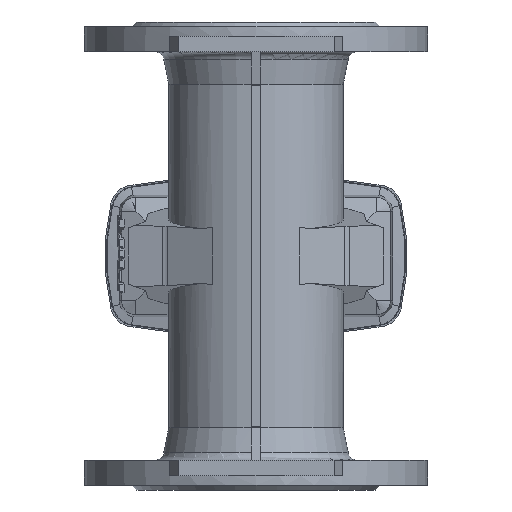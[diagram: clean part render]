
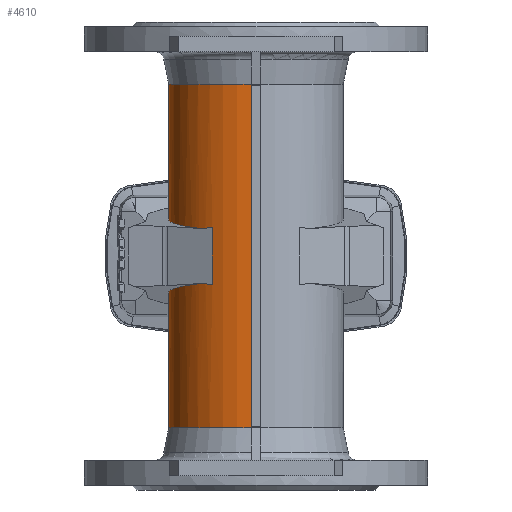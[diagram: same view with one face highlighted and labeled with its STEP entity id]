
A CAD part, front view. The second image highlights one B-rep face of the part: STEP entity #4610.
In plain terms, the highlighted cylindrical face has radius 56 mm (diameter 112 mm), a partial arc.
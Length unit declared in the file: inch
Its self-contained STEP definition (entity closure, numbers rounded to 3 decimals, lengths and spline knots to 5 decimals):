
#1296 = ORIENTED_EDGE ( 'NONE', *, *, #7206, .T. ) ;
#1313 = ORIENTED_EDGE ( 'NONE', *, *, #7179, .T. ) ;
#1315 = ORIENTED_EDGE ( 'NONE', *, *, #7220, .T. ) ;
#1317 = ORIENTED_EDGE ( 'NONE', *, *, #7231, .T. ) ;
#1323 = ORIENTED_EDGE ( 'NONE', *, *, #7238, .F. ) ;
#1324 = ORIENTED_EDGE ( 'NONE', *, *, #7190, .F. ) ;
#1347 = ORIENTED_EDGE ( 'NONE', *, *, #7184, .T. ) ;
#1354 = ORIENTED_EDGE ( 'NONE', *, *, #7183, .F. ) ;
#1573 = FACE_OUTER_BOUND ( 'NONE', #3813, .T. ) ;
#1578 = CYLINDRICAL_SURFACE ( 'NONE', #7787, 2.20472 ) ;
#2727 = CARTESIAN_POINT ( 'NONE',  ( -0.11811, -2.20156, 4.33638 ) ) ;
#2731 = CARTESIAN_POINT ( 'NONE',  ( -1.10236, -1.90935, 0.7091 ) ) ;
#2732 = CARTESIAN_POINT ( 'NONE',  ( -0.11811, 2.20156, 1.2707 ) ) ;
#2752 = CARTESIAN_POINT ( 'NONE',  ( -0.11811, 2.20156, -4.33638 ) ) ;
#2757 = CARTESIAN_POINT ( 'NONE',  ( -0.11811, 2.20156, -1.2707 ) ) ;
#2789 = CARTESIAN_POINT ( 'NONE',  ( -0.11811, 2.20156, 4.33638 ) ) ;
#2997 = VERTEX_POINT ( 'NONE', #2727 ) ;
#3001 = VERTEX_POINT ( 'NONE', #2731 ) ;
#3002 = VERTEX_POINT ( 'NONE', #2732 ) ;
#3022 = VERTEX_POINT ( 'NONE', #2752 ) ;
#3027 = VERTEX_POINT ( 'NONE', #2757 ) ;
#3059 = VERTEX_POINT ( 'NONE', #2789 ) ;
#3245 = ORIENTED_EDGE ( 'NONE', *, *, #7199, .F. ) ;
#3407 =( BOUNDED_CURVE ( )  B_SPLINE_CURVE ( 3, ( #9956, #9955, #9961, #9962 ),
 .UNSPECIFIED., .F., .F. ) 
 B_SPLINE_CURVE_WITH_KNOTS ( ( 4, 4 ),
 ( 0.17837, 2.55538 ),
 .UNSPECIFIED. ) 
 CURVE ( )  GEOMETRIC_REPRESENTATION_ITEM ( )  RATIONAL_B_SPLINE_CURVE ( ( 1., 0.582, 0.582, 1. ) ) 
 REPRESENTATION_ITEM ( '' )  );
#3423 =( BOUNDED_CURVE ( )  B_SPLINE_CURVE ( 3, ( #10137, #10143, #10157, #10158 ),
 .UNSPECIFIED., .F., .F. ) 
 B_SPLINE_CURVE_WITH_KNOTS ( ( 4, 4 ),
 ( 4.00141, 4.18879 ),
 .UNSPECIFIED. ) 
 CURVE ( )  GEOMETRIC_REPRESENTATION_ITEM ( )  RATIONAL_B_SPLINE_CURVE ( ( 1., 0.997, 0.997, 1. ) ) 
 REPRESENTATION_ITEM ( '' )  );
#3430 =( BOUNDED_CURVE ( )  B_SPLINE_CURVE ( 3, ( #10113, #10107, #10118, #10119 ),
 .UNSPECIFIED., .F., .F. ) 
 B_SPLINE_CURVE_WITH_KNOTS ( ( 4, 4 ),
 ( 0.17837, 2.55538 ),
 .UNSPECIFIED. ) 
 CURVE ( )  GEOMETRIC_REPRESENTATION_ITEM ( )  RATIONAL_B_SPLINE_CURVE ( ( 1., 0.582, 0.582, 1. ) ) 
 REPRESENTATION_ITEM ( '' )  );
#3446 =( BOUNDED_CURVE ( )  B_SPLINE_CURVE ( 3, ( #9978, #9970, #9980, #9981 ),
 .UNSPECIFIED., .F., .F. ) 
 B_SPLINE_CURVE_WITH_KNOTS ( ( 4, 4 ),
 ( 4.00141, 4.18879 ),
 .UNSPECIFIED. ) 
 CURVE ( )  GEOMETRIC_REPRESENTATION_ITEM ( )  RATIONAL_B_SPLINE_CURVE ( ( 1., 0.997, 0.997, 1. ) ) 
 REPRESENTATION_ITEM ( '' )  );
#3813 = EDGE_LOOP ( 'NONE', ( #1296, #1324, #1354, #1313, #1347, #5960, #3245, #1323, #1315, #1317 ) ) ;
#3909 = VERTEX_POINT ( 'NONE', #5763 ) ;
#3914 = VERTEX_POINT ( 'NONE', #5786 ) ;
#3929 = VERTEX_POINT ( 'NONE', #5800 ) ;
#3945 = VERTEX_POINT ( 'NONE', #5816 ) ;
#4610 = ADVANCED_FACE ( 'NONE', ( #1573 ), #1578, .T. ) ;
#5763 = CARTESIAN_POINT ( 'NONE',  ( -1.43875, -1.67057, 0.70323 ) ) ;
#5786 = CARTESIAN_POINT ( 'NONE',  ( -1.43875, -1.67057, -0.70323 ) ) ;
#5800 = CARTESIAN_POINT ( 'NONE',  ( -1.10236, -1.90935, -0.7091 ) ) ;
#5816 = CARTESIAN_POINT ( 'NONE',  ( -0.11811, -2.20156, -4.33638 ) ) ;
#5960 = ORIENTED_EDGE ( 'NONE', *, *, #7209, .T. ) ;
#7179 = EDGE_CURVE ( 'NONE', #3027, #3022, #8941, .T. ) ;
#7183 = EDGE_CURVE ( 'NONE', #3027, #3914, #3407, .T. ) ;
#7184 = EDGE_CURVE ( 'NONE', #3022, #3945, #8950, .T. ) ;
#7190 = EDGE_CURVE ( 'NONE', #3914, #3929, #3446, .T. ) ;
#7199 = EDGE_CURVE ( 'NONE', #3059, #2997, #8963, .T. ) ;
#7206 = EDGE_CURVE ( 'NONE', #3001, #3929, #8971, .T. ) ;
#7209 = EDGE_CURVE ( 'NONE', #3945, #2997, #8977, .T. ) ;
#7220 = EDGE_CURVE ( 'NONE', #3002, #3909, #3430, .T. ) ;
#7231 = EDGE_CURVE ( 'NONE', #3909, #3001, #3423, .T. ) ;
#7238 = EDGE_CURVE ( 'NONE', #3002, #3059, #9005, .T. ) ;
#7787 = AXIS2_PLACEMENT_3D ( 'NONE', #8015, #8013, #8011 ) ;
#8011 = DIRECTION ( 'NONE',  ( 1., 0., 0. ) ) ;
#8013 = DIRECTION ( 'NONE',  ( 0., 0., 1. ) ) ;
#8015 = CARTESIAN_POINT ( 'NONE',  ( 0., 0., 0. ) ) ;
#8941 = LINE ( 'NONE', #9946, #8946 ) ;
#8946 = VECTOR ( 'NONE', #9951, 39.37008 ) ;
#8950 = CIRCLE ( 'NONE', #9718, 2.20472 ) ;
#8963 = CIRCLE ( 'NONE', #9724, 2.20472 ) ;
#8971 = LINE ( 'NONE', #10053, #8975 ) ;
#8975 = VECTOR ( 'NONE', #10048, 39.37008 ) ;
#8977 = LINE ( 'NONE', #10069, #8980 ) ;
#8980 = VECTOR ( 'NONE', #10070, 39.37008 ) ;
#9005 = LINE ( 'NONE', #10179, #9009 ) ;
#9009 = VECTOR ( 'NONE', #10169, 39.37008 ) ;
#9718 = AXIS2_PLACEMENT_3D ( 'NONE', #9965, #9966, #9967 ) ;
#9724 = AXIS2_PLACEMENT_3D ( 'NONE', #10010, #10011, #10012 ) ;
#9946 = CARTESIAN_POINT ( 'NONE',  ( -0.11811, 2.20156, 0. ) ) ;
#9951 = DIRECTION ( 'NONE',  ( 0., 0., -1. ) ) ;
#9955 = CARTESIAN_POINT ( 'NONE',  ( -2.45778, 2.07604, -1.21182 ) ) ;
#9956 = CARTESIAN_POINT ( 'NONE',  ( -0.11811, 2.20156, -1.2707 ) ) ;
#9961 = CARTESIAN_POINT ( 'NONE',  ( -3.21412, -0.14156, -0.88683 ) ) ;
#9962 = CARTESIAN_POINT ( 'NONE',  ( -1.43875, -1.67057, -0.70323 ) ) ;
#9965 = CARTESIAN_POINT ( 'NONE',  ( 0., 0., -4.33638 ) ) ;
#9966 = DIRECTION ( 'NONE',  ( 0., 0., 1. ) ) ;
#9967 = DIRECTION ( 'NONE',  ( 1., 0., 0. ) ) ;
#9970 = CARTESIAN_POINT ( 'NONE',  ( -1.33426, -1.76057, -0.70506 ) ) ;
#9978 = CARTESIAN_POINT ( 'NONE',  ( -1.43875, -1.67057, -0.70323 ) ) ;
#9980 = CARTESIAN_POINT ( 'NONE',  ( -1.2218, -1.84039, -0.70702 ) ) ;
#9981 = CARTESIAN_POINT ( 'NONE',  ( -1.10236, -1.90935, -0.7091 ) ) ;
#10010 = CARTESIAN_POINT ( 'NONE',  ( 0., 0., 4.33638 ) ) ;
#10011 = DIRECTION ( 'NONE',  ( 0., 0., 1. ) ) ;
#10012 = DIRECTION ( 'NONE',  ( 1., 0., 0. ) ) ;
#10048 = DIRECTION ( 'NONE',  ( 0., 0., -1. ) ) ;
#10053 = CARTESIAN_POINT ( 'NONE',  ( -1.10236, -1.90935, 5.90551 ) ) ;
#10069 = CARTESIAN_POINT ( 'NONE',  ( -0.11811, -2.20156, 0. ) ) ;
#10070 = DIRECTION ( 'NONE',  ( 0., 0., 1. ) ) ;
#10107 = CARTESIAN_POINT ( 'NONE',  ( -2.45778, 2.07604, 1.21182 ) ) ;
#10113 = CARTESIAN_POINT ( 'NONE',  ( -0.11811, 2.20156, 1.2707 ) ) ;
#10118 = CARTESIAN_POINT ( 'NONE',  ( -3.21412, -0.14156, 0.88683 ) ) ;
#10119 = CARTESIAN_POINT ( 'NONE',  ( -1.43875, -1.67057, 0.70323 ) ) ;
#10137 = CARTESIAN_POINT ( 'NONE',  ( -1.43875, -1.67057, 0.70323 ) ) ;
#10143 = CARTESIAN_POINT ( 'NONE',  ( -1.33426, -1.76057, 0.70506 ) ) ;
#10157 = CARTESIAN_POINT ( 'NONE',  ( -1.2218, -1.84039, 0.70702 ) ) ;
#10158 = CARTESIAN_POINT ( 'NONE',  ( -1.10236, -1.90935, 0.7091 ) ) ;
#10169 = DIRECTION ( 'NONE',  ( 0., 0., 1. ) ) ;
#10179 = CARTESIAN_POINT ( 'NONE',  ( -0.11811, 2.20156, 0. ) ) ;
